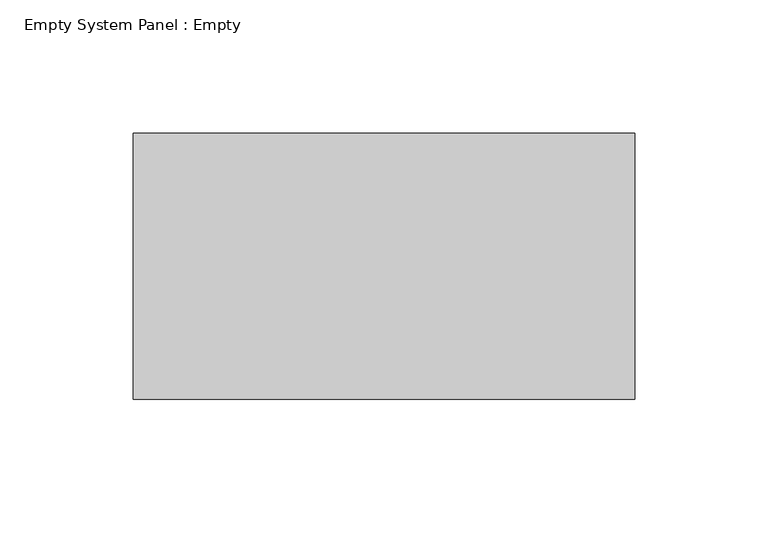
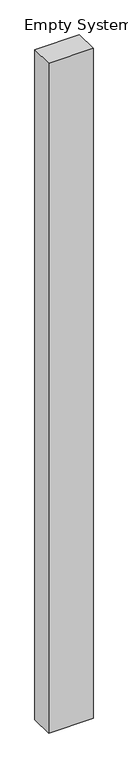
"""IFC4 building model written with IfcOpenShell, lengths in millimetres: plate geometry, Empty System Panel : Empty."""

from ifc_helpers import new_model, si_unit, origin, origin_with_axes, place, context, project, spatial, polyline, outline, extrude, source, transform, mapped, element, save


def empty_system_panel_empty_a27fa234(model_context):
    return source(origin(), model_context, "Body", "SweptSolid", [
        extrude(outline(polyline([(94.240855, -50.0), (-94.240855, -50.0), (-94.240855, 50.0), (94.240855, 50.0), (94.240855, -50.0)])), origin_with_axes(), (0.0, 0.0, 1.0), 3000.0),
    ])


if __name__ == "__main__":
    model = new_model("IFC4")
    model_context = context("Model", 3, world=origin())
    ifc_project = project(units=[si_unit("LENGTHUNIT", "METRE", prefix="MILLI")], contexts=[model_context])
    site = spatial("IfcSite", under=ifc_project)
    building = spatial("IfcBuilding", under=site)
    placement = place(None, origin())
    empty_system_panel_empty_shape = empty_system_panel_empty_a27fa234(model_context)
    element("IfcPlate", 1, ObjectType="Empty System Panel : Empty", at=placement, inside=building, context=model_context, shape_type="MappedRepresentation", body=[
        mapped(empty_system_panel_empty_shape, transform((0.0, 0.0, 0.0), x_axis=(1.0, 0.0, 0.0), y_axis=(0.0, 1.0, 0.0), z_axis=(0.0, 0.0, 1.0))),
    ])
    save(model, "model.ifc")
